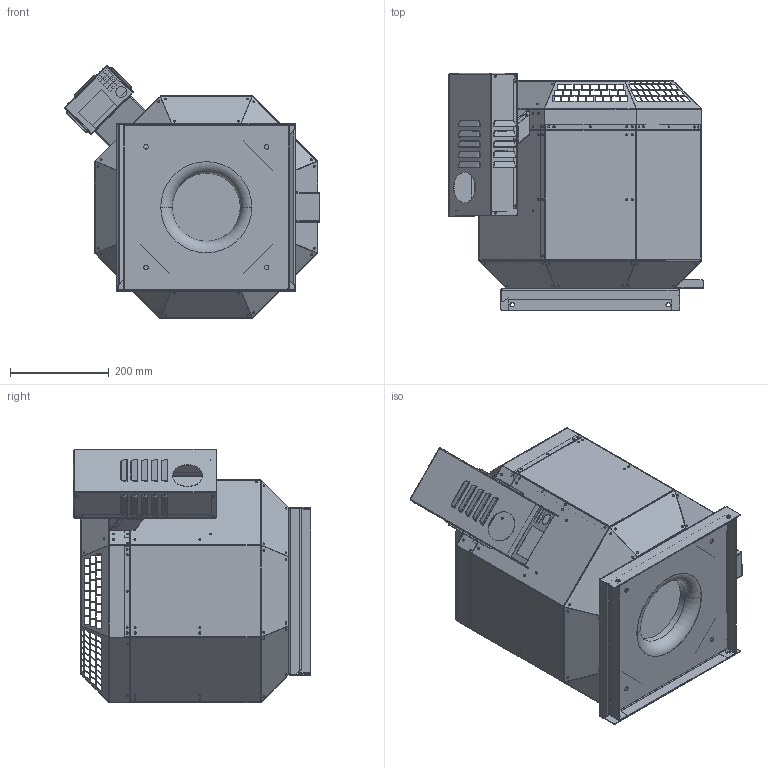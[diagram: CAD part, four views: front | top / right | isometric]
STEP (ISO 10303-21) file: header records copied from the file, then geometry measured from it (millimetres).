
FILE_DESCRIPTION (( 'STEP AP203' ), '1' );
FILE_NAME ('142174-01_DVN225E230_step.step', '2018-07-03T07:52:33', ( '' ), ( '' ), 'SwSTEP 2.0', 'SolidWorks 2017', '' );
FILE_SCHEMA (( 'CONFIG_CONTROL_DESIGN' ));
Length unit declared in the file: millimetre
Products named in the file (1): 142174-01_DVN225E230_step
Bounding box: 517.71 x 481.99 x 513.88 mm (x, y, z)
Surface area: 2189781.9 mm2 (no closed solid volume)
Topology: 0 solids, 31 shells, 1551 faces, 6735 edges, 4826 vertices
Faces by surface type: plane 1036, cylinder 417, bspline 96, torus 2
Entity records: 87090 total; most frequent: CARTESIAN_POINT 32697, DIRECTION 10394, ORIENTED_EDGE 9940, EDGE_CURVE 6735, LINE 4932, VECTOR 4932, VERTEX_POINT 4826, AXIS2_PLACEMENT_3D 2731
